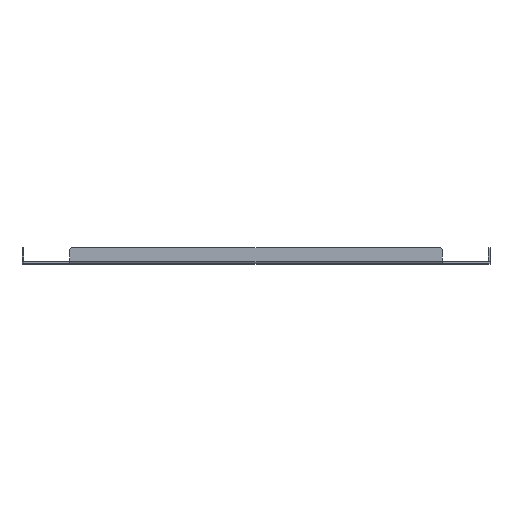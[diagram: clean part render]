
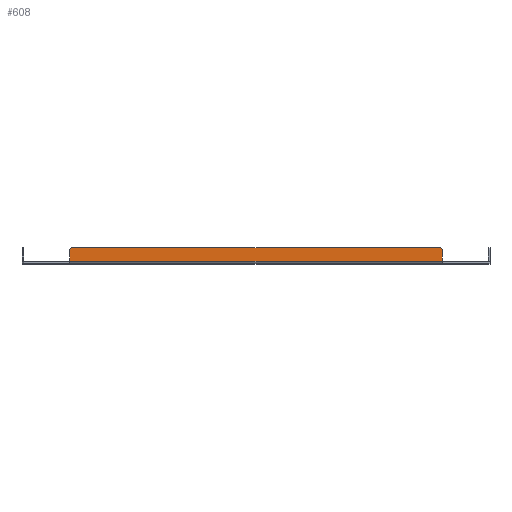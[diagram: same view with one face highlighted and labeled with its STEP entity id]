
A CAD part, top view. The second image highlights one B-rep face of the part: STEP entity #608.
In plain terms, the highlighted planar face has unit normal (0, 0, 1).
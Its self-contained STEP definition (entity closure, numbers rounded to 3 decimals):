
#301 = VECTOR ( 'NONE', #1384, 1000. ) ;
#399 = DIRECTION ( 'NONE',  ( 1., 0., 0. ) ) ;
#402 = PLANE ( 'NONE',  #2914 ) ;
#406 = CARTESIAN_POINT ( 'NONE',  ( 349.5, 0., 395. ) ) ;
#416 = DIRECTION ( 'NONE',  ( 0., 0., 1. ) ) ;
#443 = EDGE_CURVE ( 'NONE', #1439, #1157, #756, .T. ) ;
#449 = EDGE_CURVE ( 'NONE', #1863, #2979, #2026, .T. ) ;
#515 = DIRECTION ( 'NONE',  ( -1., 0., 0. ) ) ;
#516 = DIRECTION ( 'NONE',  ( -0.707, 0.707, 0. ) ) ;
#519 = CARTESIAN_POINT ( 'NONE',  ( -278.5, 3.5, 395. ) ) ;
#526 = CARTESIAN_POINT ( 'NONE',  ( 278.5, 21., 395. ) ) ;
#561 = CARTESIAN_POINT ( 'NONE',  ( -278.5, 3.5, 395. ) ) ;
#608 = ADVANCED_FACE ( 'NONE', ( #1892 ), #402, .T. ) ;
#679 = VECTOR ( 'NONE', #516, 1000. ) ;
#721 = DIRECTION ( 'NONE',  ( -0.707, -0.707, 0. ) ) ;
#756 = LINE ( 'NONE', #526, #679 ) ;
#920 = CARTESIAN_POINT ( 'NONE',  ( -275.5, 24., 395. ) ) ;
#954 = LINE ( 'NONE', #1457, #301 ) ;
#1014 = DIRECTION ( 'NONE',  ( 0., -1., 0. ) ) ;
#1018 = CARTESIAN_POINT ( 'NONE',  ( -278.5, 1.25, 395. ) ) ;
#1076 = LINE ( 'NONE', #920, #1848 ) ;
#1157 = VERTEX_POINT ( 'NONE', #3161 ) ;
#1284 = LINE ( 'NONE', #1018, #1380 ) ;
#1301 = ORIENTED_EDGE ( 'NONE', *, *, #1971, .T. ) ;
#1380 = VECTOR ( 'NONE', #1014, 1000. ) ;
#1384 = DIRECTION ( 'NONE',  ( 0., 1., 0. ) ) ;
#1439 = VERTEX_POINT ( 'NONE', #1759 ) ;
#1457 = CARTESIAN_POINT ( 'NONE',  ( 278.5, 0., 395. ) ) ;
#1507 = DIRECTION ( 'NONE',  ( -1., 0., 0. ) ) ;
#1542 = CARTESIAN_POINT ( 'NONE',  ( 349.5, 24., 395. ) ) ;
#1546 = EDGE_LOOP ( 'NONE', ( #1713, #2593, #1301, #2153, #1620, #2341 ) ) ;
#1620 = ORIENTED_EDGE ( 'NONE', *, *, #2094, .T. ) ;
#1713 = ORIENTED_EDGE ( 'NONE', *, *, #1994, .T. ) ;
#1725 = VERTEX_POINT ( 'NONE', #2420 ) ;
#1759 = CARTESIAN_POINT ( 'NONE',  ( 278.5, 21., 395. ) ) ;
#1769 = VECTOR ( 'NONE', #1507, 1000. ) ;
#1774 = VERTEX_POINT ( 'NONE', #2366 ) ;
#1848 = VECTOR ( 'NONE', #721, 1000. ) ;
#1863 = VERTEX_POINT ( 'NONE', #2290 ) ;
#1892 = FACE_OUTER_BOUND ( 'NONE', #1546, .T. ) ;
#1971 = EDGE_CURVE ( 'NONE', #1157, #1774, #2287, .T. ) ;
#1994 = EDGE_CURVE ( 'NONE', #1863, #1439, #954, .T. ) ;
#2026 = LINE ( 'NONE', #561, #2519 ) ;
#2094 = EDGE_CURVE ( 'NONE', #1725, #2979, #1284, .T. ) ;
#2153 = ORIENTED_EDGE ( 'NONE', *, *, #2551, .T. ) ;
#2287 = LINE ( 'NONE', #1542, #1769 ) ;
#2290 = CARTESIAN_POINT ( 'NONE',  ( 278.5, 3.5, 395. ) ) ;
#2341 = ORIENTED_EDGE ( 'NONE', *, *, #449, .F. ) ;
#2366 = CARTESIAN_POINT ( 'NONE',  ( -275.5, 24., 395. ) ) ;
#2420 = CARTESIAN_POINT ( 'NONE',  ( -278.5, 21., 395. ) ) ;
#2519 = VECTOR ( 'NONE', #515, 1000. ) ;
#2551 = EDGE_CURVE ( 'NONE', #1774, #1725, #1076, .T. ) ;
#2593 = ORIENTED_EDGE ( 'NONE', *, *, #443, .T. ) ;
#2914 = AXIS2_PLACEMENT_3D ( 'NONE', #406, #416, #399 ) ;
#2979 = VERTEX_POINT ( 'NONE', #519 ) ;
#3161 = CARTESIAN_POINT ( 'NONE',  ( 275.5, 24., 395. ) ) ;
